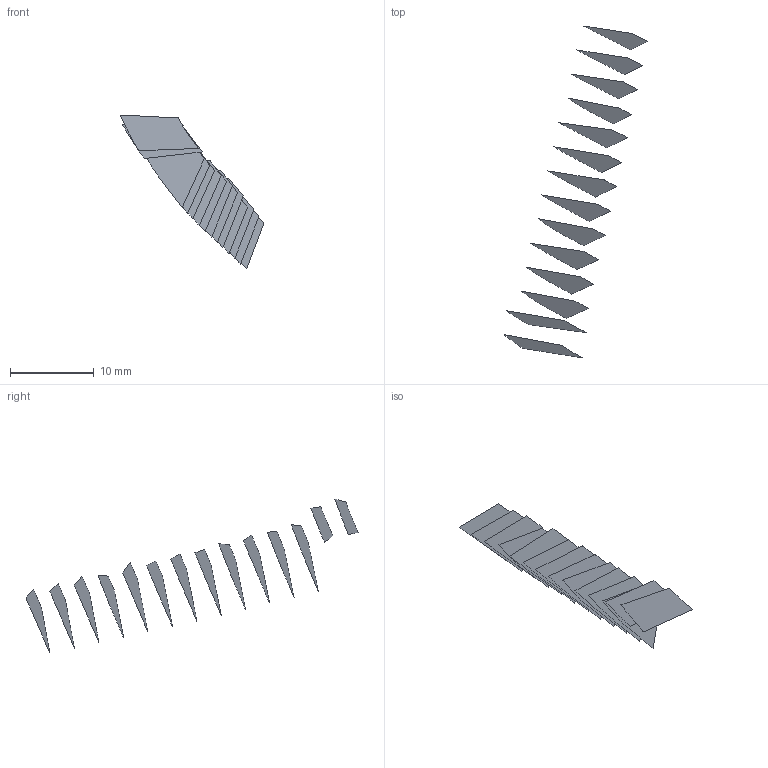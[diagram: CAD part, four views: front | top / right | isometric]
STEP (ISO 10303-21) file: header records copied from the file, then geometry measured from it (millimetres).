
FILE_DESCRIPTION(('FreeCAD Model'),'2;1');
FILE_NAME('Open CASCADE Shape Model','2022-05-22T07:50:31',('FreeCAD'),( 'FreeCAD'),'Open CASCADE STEP processor 7.5','FreeCAD','Unknown');
FILE_SCHEMA(('AUTOMOTIVE_DESIGN { 1 0 10303 214 1 1 1 1 }'));
Length unit declared in the file: millimetre
Products named in the file (15): Open CASCADE STEP translator 7.5 10; Open CASCADE STEP translator 7.5 10.1; Open CASCADE STEP translator 7.5 10.2; Open CASCADE STEP translator 7.5 10.3; Open CASCADE STEP translator 7.5 10.4; Open CASCADE STEP translator 7.5 10.5; Open CASCADE STEP translator 7.5 10.6; Open CASCADE STEP translator 7.5 10.7; Open CASCADE STEP translator 7.5 10.8; Open CASCADE STEP translator 7.5 10.9; Open CASCADE STEP translator 7.5 10.10; Open CASCADE STEP translator 7.5 10.11; Open CASCADE STEP translator 7.5 10.12; Open CASCADE STEP translator 7.5 10.13; Open CASCADE STEP translator 7.5 10.14
Assembly tree (14 placements, depth 2):
  Open CASCADE STEP translator 7.5 10
    Open CASCADE STEP translator 7.5 10.1
    Open CASCADE STEP translator 7.5 10.2
    Open CASCADE STEP translator 7.5 10.3
    Open CASCADE STEP translator 7.5 10.4
    Open CASCADE STEP translator 7.5 10.5
    Open CASCADE STEP translator 7.5 10.6
    Open CASCADE STEP translator 7.5 10.7
    Open CASCADE STEP translator 7.5 10.8
    Open CASCADE STEP translator 7.5 10.9
    Open CASCADE STEP translator 7.5 10.10
    Open CASCADE STEP translator 7.5 10.11
    Open CASCADE STEP translator 7.5 10.12
    Open CASCADE STEP translator 7.5 10.13
    Open CASCADE STEP translator 7.5 10.14
Bounding box: 17.21 x 39.74 x 18.43 mm (x, y, z)
Surface area: 476.5 mm2 (no closed solid volume)
Topology: 0 solids, 14 shells, 14 faces, 310 edges, 310 vertices
Faces by surface type: bspline 14
Entity records: 4438 total; most frequent: CARTESIAN_POINT 1621, B_SPLINE_CURVE_WITH_KNOTS 620, ORIENTED_EDGE 310, EDGE_CURVE 310, VERTEX_POINT 310, SURFACE_CURVE 310, PCURVE 310, DEFINITIONAL_REPRESENTATION 310
